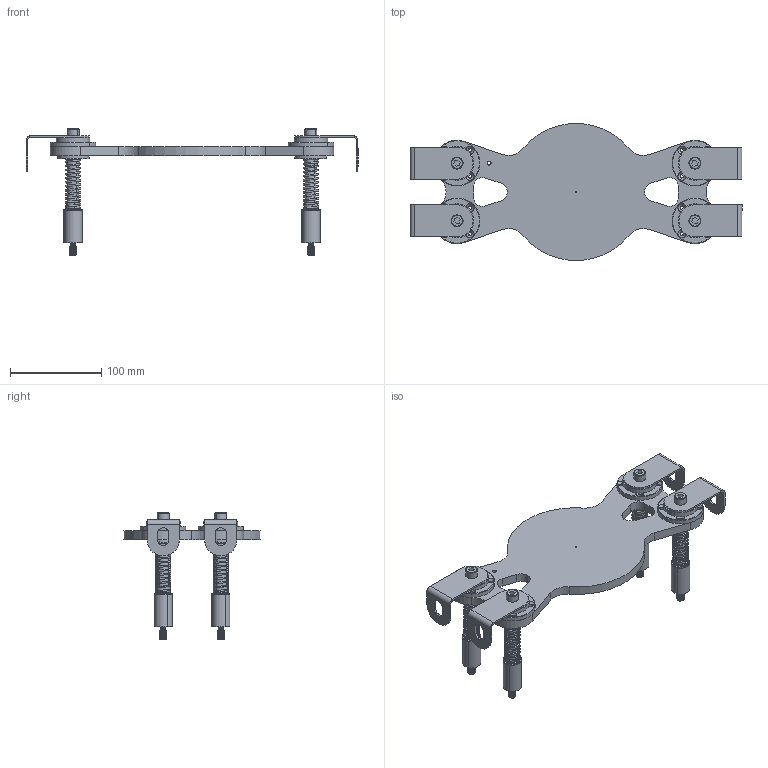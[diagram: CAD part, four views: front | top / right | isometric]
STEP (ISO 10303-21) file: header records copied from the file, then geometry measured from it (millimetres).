
FILE_DESCRIPTION (( 'STEP AP203' ), '1' );
FILE_NAME ('Floating attachment 260x63.STEP', '2020-04-07T04:49:58', ( '' ), ( '' ), 'SwSTEP 2.0', 'SolidWorks 2019', '' );
FILE_SCHEMA (( 'CONFIG_CONTROL_DESIGN' ));
Length unit declared in the file: millimetre
Products named in the file (1): Floating attachment 260x63
Bounding box: 363 x 149.51 x 139 mm (x, y, z)
Surface area: 170542 mm2 (no closed solid volume)
Topology: 0 solids, 43 shells, 632 faces, 1716 edges, 1140 vertices
Faces by surface type: cylinder 302, plane 158, cone 88, bspline 44, torus 40
Entity records: 52371 total; most frequent: CARTESIAN_POINT 36569, DIRECTION 3366, ORIENTED_EDGE 3136, EDGE_CURVE 1716, AXIS2_PLACEMENT_3D 1353, VERTEX_POINT 1140, EDGE_LOOP 768, CIRCLE 764
